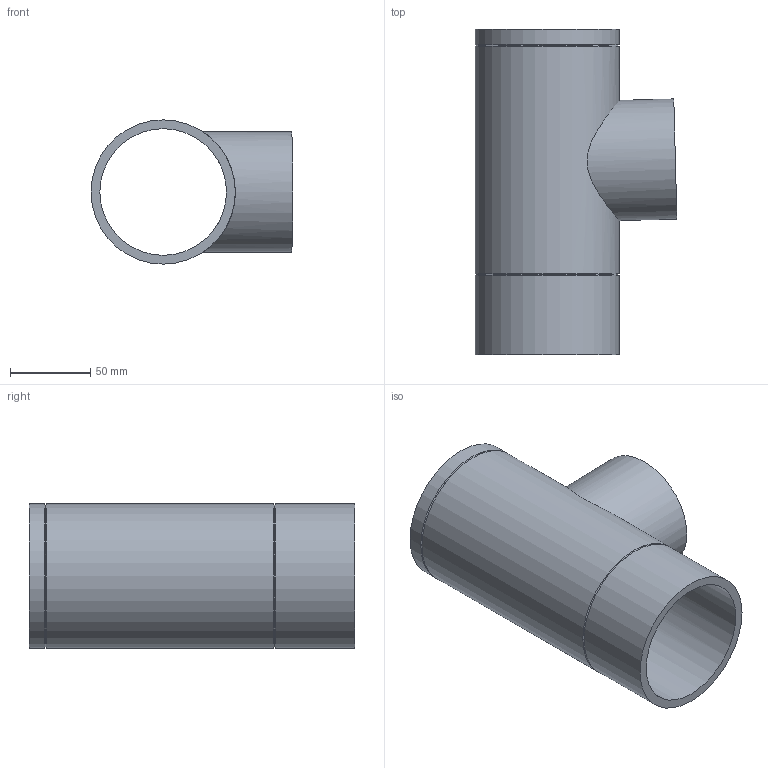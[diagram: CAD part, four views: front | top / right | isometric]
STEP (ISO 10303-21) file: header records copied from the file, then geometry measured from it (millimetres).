
FILE_DESCRIPTION(/* description */ (''),/* implementation_level */ '2;1');
FILE_NAME(/* name */ 'Z:\Geberit\Export\Export18\Abzweig Gerade_Ipart\stp\308078.stp',/* time_stamp */ '2014-08-26T21:48:58+02:00',/* author */ ('ML'),/* organization */ (''),/* preprocessor_version */ 'ST-DEVELOPER v15.2',/* originating_system */ 'Autodesk Inventor 2014',/* authorisation */ '');
FILE_SCHEMA (('AUTOMOTIVE_DESIGN { 1 0 10303 214 3 1 1 }'));
Length unit declared in the file: millimetre
Products named in the file (1): 308078
Bounding box: 125.95 x 203 x 90 mm (x, y, z)
Volume: 308981 mm3; surface area: 123958.2 mm2
Topology: 1 solids, 1 shells, 13 faces, 31 edges, 20 vertices
Faces by surface type: cylinder 6, cone 4, plane 3
Full cylindrical faces by diameter (mm): 67.8 x1, 75 x1, 79 x1, 90 x3
Entity records: 427 total; most frequent: CARTESIAN_POINT 172, DIRECTION 52, EDGE_LOOP 28, ORIENTED_EDGE 28, AXIS2_PLACEMENT_3D 26, FACE_BOUND 19, VERTEX_POINT 14, EDGE_CURVE 14
